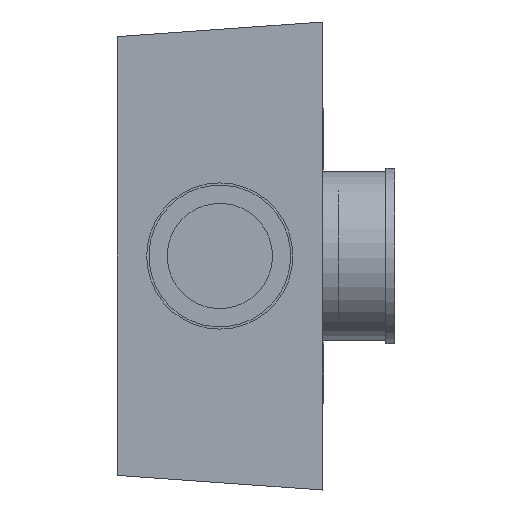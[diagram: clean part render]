
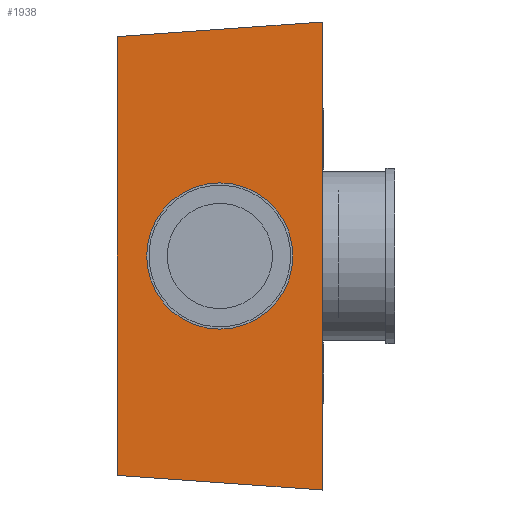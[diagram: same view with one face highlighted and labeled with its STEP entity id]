
A CAD part, front view. The second image highlights one B-rep face of the part: STEP entity #1938.
In plain terms, the highlighted planar face has unit normal (0, -1, 0).
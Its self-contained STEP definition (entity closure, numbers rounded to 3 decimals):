
#109=LINE('',#2874,#293);
#112=LINE('',#2880,#296);
#115=LINE('',#2884,#299);
#116=LINE('',#2885,#300);
#293=VECTOR('',#2375,10.);
#296=VECTOR('',#2380,10.);
#299=VECTOR('',#2385,10.);
#300=VECTOR('',#2386,10.);
#479=PLANE('',#2193);
#566=FACE_BOUND('',#751,.T.);
#618=FACE_OUTER_BOUND('',#750,.T.);
#750=EDGE_LOOP('',(#1419,#1420,#1421,#1422));
#751=EDGE_LOOP('',(#1423));
#914=CIRCLE('',#2194,25.);
#960=VERTEX_POINT('',#2872);
#961=VERTEX_POINT('',#2873);
#962=VERTEX_POINT('',#2878);
#963=VERTEX_POINT('',#2879);
#964=VERTEX_POINT('',#2886);
#1146=EDGE_CURVE('',#960,#961,#109,.T.);
#1149=EDGE_CURVE('',#962,#963,#112,.T.);
#1152=EDGE_CURVE('',#962,#961,#115,.T.);
#1153=EDGE_CURVE('',#960,#963,#116,.T.);
#1154=EDGE_CURVE('',#964,#964,#914,.T.);
#1419=ORIENTED_EDGE('',*,*,#1146,.T.);
#1420=ORIENTED_EDGE('',*,*,#1152,.F.);
#1421=ORIENTED_EDGE('',*,*,#1149,.T.);
#1422=ORIENTED_EDGE('',*,*,#1153,.F.);
#1423=ORIENTED_EDGE('',*,*,#1154,.T.);
#1938=ADVANCED_FACE('',(#618,#566),#479,.T.);
#2193=AXIS2_PLACEMENT_3D('',#2883,#2383,#2384);
#2194=AXIS2_PLACEMENT_3D('',#2887,#2387,#2388);
#2375=DIRECTION('',(-0.997,0.,-0.071));
#2380=DIRECTION('',(0.997,0.,-0.071));
#2383=DIRECTION('center_axis',(0.,-1.,0.));
#2384=DIRECTION('ref_axis',(0.,0.,-1.));
#2385=DIRECTION('',(0.,0.,1.));
#2386=DIRECTION('',(0.,0.,-1.));
#2387=DIRECTION('center_axis',(0.,1.,0.));
#2388=DIRECTION('ref_axis',(-1.,0.,0.));
#2872=CARTESIAN_POINT('',(70.,0.,0.));
#2873=CARTESIAN_POINT('',(0.,0.,-5.));
#2874=CARTESIAN_POINT('',(0.178,0.,-4.987));
#2878=CARTESIAN_POINT('',(0.,0.,-155.));
#2879=CARTESIAN_POINT('',(70.,0.,-160.));
#2880=CARTESIAN_POINT('',(29.492,0.,-157.107));
#2883=CARTESIAN_POINT('Origin',(0.,0.,0.));
#2884=CARTESIAN_POINT('',(0.,0.,-160.));
#2885=CARTESIAN_POINT('',(70.,0.,-160.));
#2886=CARTESIAN_POINT('',(60.,0.,-80.));
#2887=CARTESIAN_POINT('Origin',(35.,0.,-80.));
